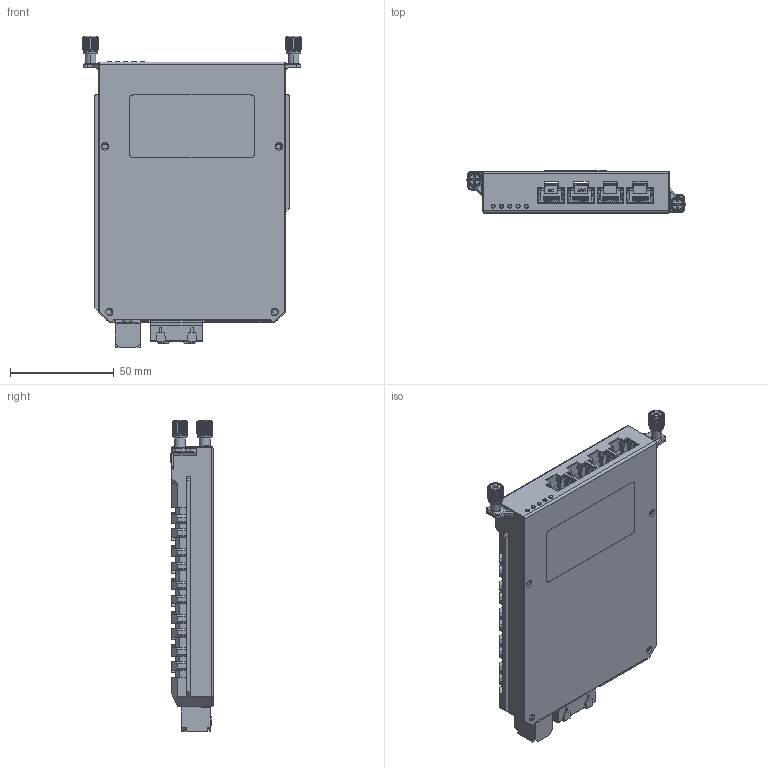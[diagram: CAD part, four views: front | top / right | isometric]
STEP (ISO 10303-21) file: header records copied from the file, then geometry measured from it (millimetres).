
FILE_DESCRIPTION((''),'2;1');
FILE_NAME('M-GTX_PZ','2017-11-10T',('CharlieSW_Chou'),('PTC'),'PRO/ENGINEER BY PARAMETRIC TECHNOLOGY CORPORATION, 2013230','PRO/ENGINEER BY PARAMETRIC TECHNOLOGY CORPORATION, 2013230','');
FILE_SCHEMA(('AUTOMOTIVE_DESIGN { 1 0 10303 214 1 1 1 1 }'));
Products named in the file (1): M-GTX_PZ
Bounding box: 105.5 x 20.3 x 150.4 mm (x, y, z)
Volume: 62950.6 mm3; surface area: 93503.4 mm2
Topology: 25 solids, 57 shells, 9630 faces, 27553 edges, 17889 vertices
Faces by surface type: plane 7353, cylinder 1827, cone 175, bspline 163, torus 98, sphere 12, extrusion 2
Entity records: 375801 total; most frequent: CARTESIAN_POINT 67004, ORIENTED_EDGE 55046, DIRECTION 48505, EDGE_CURVE 27523, VECTOR 22239, LINE 22237, VERTEX_POINT 17889, AXIS2_PLACEMENT_3D 13133
